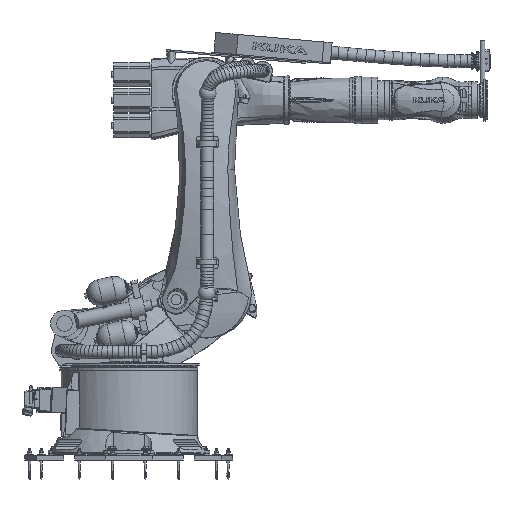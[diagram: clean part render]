
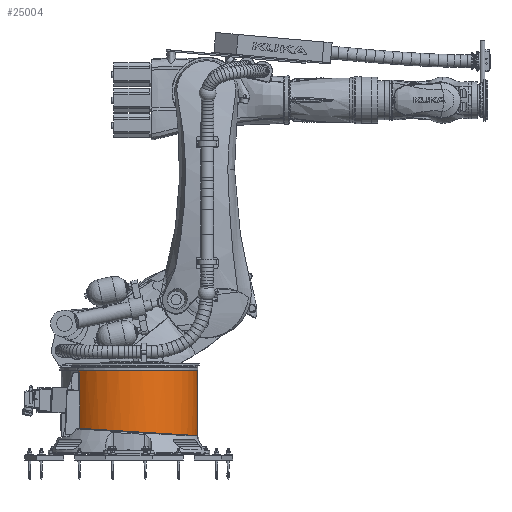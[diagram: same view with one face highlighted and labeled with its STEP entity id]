
A CAD part, front view. The second image highlights one B-rep face of the part: STEP entity #25004.
In plain terms, the highlighted cylindrical face has radius 441.5 mm (diameter 883 mm), a partial arc.
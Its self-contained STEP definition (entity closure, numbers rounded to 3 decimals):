
#17976=B_SPLINE_CURVE_WITH_KNOTS('',3,(#128129,#128130,#128131,#128132,
#128133,#128134,#128135,#128136,#128137,#128138,#128139,#128140,#128141,
#128142,#128143,#128144,#128145,#128146,#128147,#128148,#128149,#128150,
#128151,#128152,#128153,#128154,#128155,#128156,#128157,#128158,#128159,
#128160,#128161,#128162,#128163,#128164,#128165,#128166,#128167,#128168,
#128169,#128170,#128171,#128172,#128173,#128174,#128175,#128176,#128177,
#128178,#128179,#128180,#128181,#128182,#128183,#128184,#128185,#128186,
#128187,#128188,#128189,#128190,#128191,#128192,#128193,#128194,#128195,
#128196),.UNSPECIFIED.,.F.,.F.,(4,2,2,2,2,2,2,2,2,2,2,2,2,2,2,2,2,2,2,2,
2,2,2,2,2,2,2,2,2,2,2,2,2,4),(0.,0.031,0.063,
0.078,0.094,0.125,0.156,0.188,0.219,0.25,
0.281,0.313,0.344,0.375,0.406,0.438,0.469,0.5,0.531,
0.562,0.594,0.625,0.656,
0.687,0.719,0.75,0.813,0.844,0.875,
0.906,0.938,0.953,0.969,1.),.UNSPECIFIED.);
#20188=CYLINDRICAL_SURFACE('',#95056,441.5);
#21632=FACE_OUTER_BOUND('',#35698,.T.);
#25004=ADVANCED_FACE('',(#21632),#20188,.T.);
#35698=EDGE_LOOP('',(#44521,#44522,#44523,#44524,#44525,#44526,#44527,#44528,
#44529,#44530));
#44521=ORIENTED_EDGE('',*,*,#69687,.F.);
#44522=ORIENTED_EDGE('',*,*,#69688,.T.);
#44523=ORIENTED_EDGE('',*,*,#69689,.T.);
#44524=ORIENTED_EDGE('',*,*,#69690,.T.);
#44525=ORIENTED_EDGE('',*,*,#69679,.T.);
#44526=ORIENTED_EDGE('',*,*,#69691,.F.);
#44527=ORIENTED_EDGE('',*,*,#69692,.F.);
#44528=ORIENTED_EDGE('',*,*,#69693,.T.);
#44529=ORIENTED_EDGE('',*,*,#69686,.F.);
#44530=ORIENTED_EDGE('',*,*,#69694,.F.);
#62404=VERTEX_POINT('',#128096);
#62407=VERTEX_POINT('',#128101);
#62412=VERTEX_POINT('',#128114);
#62413=VERTEX_POINT('',#128116);
#62414=VERTEX_POINT('',#128120);
#62415=VERTEX_POINT('',#128121);
#62416=VERTEX_POINT('',#128123);
#62417=VERTEX_POINT('',#128125);
#62418=VERTEX_POINT('',#128128);
#62419=VERTEX_POINT('',#128197);
#69679=EDGE_CURVE('',#62404,#62407,#84726,.T.);
#69686=EDGE_CURVE('',#62413,#62412,#84733,.T.);
#69687=EDGE_CURVE('',#62414,#62415,#84734,.T.);
#69688=EDGE_CURVE('',#62414,#62416,#78590,.T.);
#69689=EDGE_CURVE('',#62416,#62417,#84735,.T.);
#69690=EDGE_CURVE('',#62417,#62404,#78591,.T.);
#69691=EDGE_CURVE('',#62418,#62407,#84736,.T.);
#69692=EDGE_CURVE('',#62419,#62418,#17976,.T.);
#69693=EDGE_CURVE('',#62419,#62412,#84737,.T.);
#69694=EDGE_CURVE('',#62415,#62413,#78592,.T.);
#78590=CIRCLE('',#95053,441.5);
#78591=CIRCLE('',#95054,441.5);
#78592=CIRCLE('',#95055,441.5);
#84726=LINE('',#128102,#89665);
#84733=LINE('',#128117,#89672);
#84734=LINE('',#128119,#89673);
#84735=LINE('',#128124,#89674);
#84736=LINE('',#128127,#89675);
#84737=LINE('',#128198,#89676);
#89665=VECTOR('',#104282,1.);
#89672=VECTOR('',#104293,1.);
#89673=VECTOR('',#104296,1.);
#89674=VECTOR('',#104299,1.);
#89675=VECTOR('',#104302,1.);
#89676=VECTOR('',#104303,1.);
#95053=AXIS2_PLACEMENT_3D('',#128122,#104297,#104298);
#95054=AXIS2_PLACEMENT_3D('',#128126,#104300,#104301);
#95055=AXIS2_PLACEMENT_3D('',#128199,#104304,#104305);
#95056=AXIS2_PLACEMENT_3D('',#128200,#104306,#104307);
#104282=DIRECTION('',(0.,0.,-1.));
#104293=DIRECTION('',(0.,0.,-1.));
#104296=DIRECTION('',(0.,0.,-1.));
#104297=DIRECTION('',(0.,0.,-1.));
#104298=DIRECTION('',(1.,0.,0.));
#104299=DIRECTION('',(0.,0.,-1.));
#104300=DIRECTION('',(0.,0.,1.));
#104301=DIRECTION('',(1.,0.,0.));
#104302=DIRECTION('',(0.,0.,1.));
#104303=DIRECTION('',(0.,0.,1.));
#104304=DIRECTION('',(0.,0.,-1.));
#104305=DIRECTION('',(1.,0.,0.));
#104306=DIRECTION('',(0.,0.,-1.));
#104307=DIRECTION('',(-1.,0.,0.));
#128096=CARTESIAN_POINT('',(-317.666,-306.611,535.3));
#128101=CARTESIAN_POINT('',(-317.666,-306.611,534.485));
#128102=CARTESIAN_POINT('',(-317.666,-306.611,558.));
#128114=CARTESIAN_POINT('',(-317.666,306.611,534.485));
#128116=CARTESIAN_POINT('',(-317.666,306.611,535.3));
#128117=CARTESIAN_POINT('',(-317.666,306.611,558.));
#128119=CARTESIAN_POINT('',(-328.098,295.421,558.));
#128120=CARTESIAN_POINT('',(-328.098,295.421,548.));
#128121=CARTESIAN_POINT('',(-328.098,295.421,535.3));
#128122=CARTESIAN_POINT('',(0.,0.,548.));
#128123=CARTESIAN_POINT('',(-328.098,-295.421,548.));
#128124=CARTESIAN_POINT('',(-328.098,-295.421,558.));
#128125=CARTESIAN_POINT('',(-328.098,-295.421,535.3));
#128126=CARTESIAN_POINT('',(0.,0.,535.3));
#128127=CARTESIAN_POINT('',(-317.666,-306.611,174.485));
#128128=CARTESIAN_POINT('',(-317.666,-306.611,174.485));
#128129=CARTESIAN_POINT('',(-317.666,306.611,174.485));
#128130=CARTESIAN_POINT('',(-302.458,322.367,173.555));
#128131=CARTESIAN_POINT('',(-286.078,336.978,172.553));
#128132=CARTESIAN_POINT('',(-251.607,363.44,170.445));
#128133=CARTESIAN_POINT('',(-233.463,375.357,169.335));
#128134=CARTESIAN_POINT('',(-204.872,391.24,167.587));
#128135=CARTESIAN_POINT('',(-195.097,396.205,166.989));
#128136=CARTESIAN_POINT('',(-175.282,405.361,165.777));
#128137=CARTESIAN_POINT('',(-165.221,409.565,165.161));
#128138=CARTESIAN_POINT('',(-134.577,421.055,163.287));
#128139=CARTESIAN_POINT('',(-113.525,427.212,162.));
#128140=CARTESIAN_POINT('',(-70.875,436.319,159.391));
#128141=CARTESIAN_POINT('',(-49.134,439.299,158.061));
#128142=CARTESIAN_POINT('',(-5.614,442.002,155.399));
#128143=CARTESIAN_POINT('',(16.324,441.737,154.058));
#128144=CARTESIAN_POINT('',(59.777,437.978,151.4));
#128145=CARTESIAN_POINT('',(81.416,434.477,150.076));
#128146=CARTESIAN_POINT('',(123.863,424.331,147.48));
#128147=CARTESIAN_POINT('',(144.714,417.681,146.205));
#128148=CARTESIAN_POINT('',(185.238,401.356,143.726));
#128149=CARTESIAN_POINT('',(204.832,391.72,142.528));
#128150=CARTESIAN_POINT('',(242.553,369.552,140.221));
#128151=CARTESIAN_POINT('',(260.489,357.136,139.124));
#128152=CARTESIAN_POINT('',(294.516,329.638,137.043));
#128153=CARTESIAN_POINT('',(310.453,314.673,136.068));
#128154=CARTESIAN_POINT('',(340.013,282.473,134.26));
#128155=CARTESIAN_POINT('',(353.596,265.272,133.429));
#128156=CARTESIAN_POINT('',(378.055,229.071,131.933));
#128157=CARTESIAN_POINT('',(388.963,210.017,131.266));
#128158=CARTESIAN_POINT('',(407.791,170.605,130.114));
#128159=CARTESIAN_POINT('',(415.766,150.125,129.627));
#128160=CARTESIAN_POINT('',(428.552,108.36,128.845));
#128161=CARTESIAN_POINT('',(433.41,86.922,128.548));
#128162=CARTESIAN_POINT('',(439.873,43.713,128.152));
#128163=CARTESIAN_POINT('',(441.503,21.804,128.053));
#128164=CARTESIAN_POINT('',(441.497,-21.906,128.053));
#128165=CARTESIAN_POINT('',(439.867,-43.785,128.153));
#128166=CARTESIAN_POINT('',(433.387,-87.043,128.549));
#128167=CARTESIAN_POINT('',(428.547,-108.394,128.845));
#128168=CARTESIAN_POINT('',(415.722,-150.254,129.629));
#128169=CARTESIAN_POINT('',(407.795,-170.602,130.114));
#128170=CARTESIAN_POINT('',(388.904,-210.132,131.27));
#128171=CARTESIAN_POINT('',(378.047,-229.087,131.934));
#128172=CARTESIAN_POINT('',(353.552,-265.333,133.432));
#128173=CARTESIAN_POINT('',(339.98,-282.513,134.262));
#128174=CARTESIAN_POINT('',(310.428,-314.697,136.069));
#128175=CARTESIAN_POINT('',(294.438,-329.704,137.047));
#128176=CARTESIAN_POINT('',(260.482,-357.138,139.124));
#128177=CARTESIAN_POINT('',(242.434,-369.627,140.228));
#128178=CARTESIAN_POINT('',(204.816,-391.725,142.529));
#128179=CARTESIAN_POINT('',(185.116,-401.41,143.734));
#128180=CARTESIAN_POINT('',(124.425,-425.844,147.446));
#128181=CARTESIAN_POINT('',(81.424,-436.116,150.076));
#128182=CARTESIAN_POINT('',(16.203,-441.742,154.065));
#128183=CARTESIAN_POINT('',(-5.676,-442.003,155.403));
#128184=CARTESIAN_POINT('',(-49.271,-439.285,158.07));
#128185=CARTESIAN_POINT('',(-70.898,-436.319,159.392));
#128186=CARTESIAN_POINT('',(-113.666,-427.177,162.008));
#128187=CARTESIAN_POINT('',(-134.594,-421.052,163.288));
#128188=CARTESIAN_POINT('',(-175.537,-405.693,165.792));
#128189=CARTESIAN_POINT('',(-195.367,-396.524,167.005));
#128190=CARTESIAN_POINT('',(-224.009,-380.607,168.757));
#128191=CARTESIAN_POINT('',(-233.384,-374.93,169.33));
#128192=CARTESIAN_POINT('',(-251.582,-362.97,170.443));
#128193=CARTESIAN_POINT('',(-260.432,-356.673,170.985));
#128194=CARTESIAN_POINT('',(-286.238,-336.839,172.563));
#128195=CARTESIAN_POINT('',(-302.458,-322.367,173.555));
#128196=CARTESIAN_POINT('',(-317.666,-306.611,174.485));
#128197=CARTESIAN_POINT('',(-317.666,306.611,174.485));
#128198=CARTESIAN_POINT('',(-317.666,306.611,174.485));
#128199=CARTESIAN_POINT('',(0.,0.,535.3));
#128200=CARTESIAN_POINT('',(0.,0.,558.));
